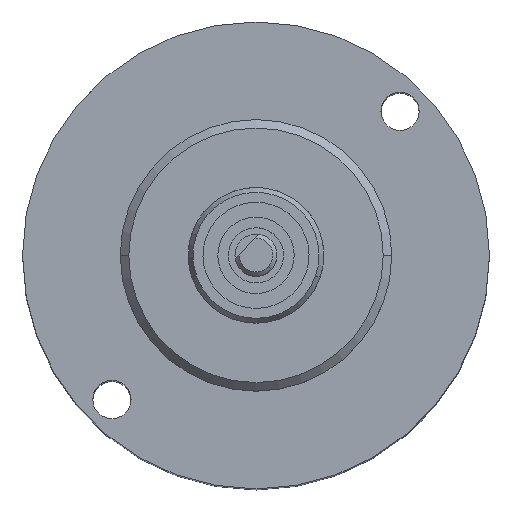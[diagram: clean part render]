
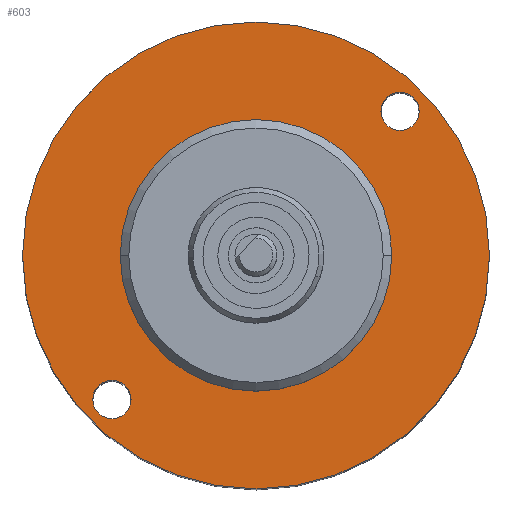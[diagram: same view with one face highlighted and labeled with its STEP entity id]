
A CAD part, top view. The second image highlights one B-rep face of the part: STEP entity #603.
In plain terms, the highlighted planar face has unit normal (0, 0, 1).
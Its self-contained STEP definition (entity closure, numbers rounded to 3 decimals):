
#52 = DIRECTION ( 'NONE',  ( 1., 0., 0. ) ) ;
#68 = DIRECTION ( 'NONE',  ( 0., 0., 1. ) ) ;
#102 = EDGE_CURVE ( 'NONE', #1951, #498, #2799, .T. ) ;
#226 = CARTESIAN_POINT ( 'NONE',  ( -15.99, 0., 71. ) ) ;
#309 = VERTEX_POINT ( 'NONE', #1990 ) ;
#356 = AXIS2_PLACEMENT_3D ( 'NONE', #1713, #68, #1985 ) ;
#405 = DIRECTION ( 'NONE',  ( 0., 0., 1. ) ) ;
#407 = DIRECTION ( 'NONE',  ( 0., 0., 1. ) ) ;
#449 = DIRECTION ( 'NONE',  ( 0., 0., 1. ) ) ;
#483 = CARTESIAN_POINT ( 'NONE',  ( -19.22, -16.97, 71. ) ) ;
#498 = VERTEX_POINT ( 'NONE', #483 ) ;
#547 = VERTEX_POINT ( 'NONE', #3497 ) ;
#603 = ADVANCED_FACE ( 'NONE', ( #3366, #1919, #633, #1196 ), #3244, .T. ) ;
#627 = ORIENTED_EDGE ( 'NONE', *, *, #2814, .F. ) ;
#633 = FACE_BOUND ( 'NONE', #952, .T. ) ;
#713 = ORIENTED_EDGE ( 'NONE', *, *, #1239, .F. ) ;
#718 = EDGE_LOOP ( 'NONE', ( #995, #713 ) ) ;
#752 = ORIENTED_EDGE ( 'NONE', *, *, #1677, .F. ) ;
#759 = AXIS2_PLACEMENT_3D ( 'NONE', #2041, #407, #2325 ) ;
#804 = EDGE_LOOP ( 'NONE', ( #752, #627 ) ) ;
#825 = CARTESIAN_POINT ( 'NONE',  ( 27.5, 0., 71. ) ) ;
#829 = AXIS2_PLACEMENT_3D ( 'NONE', #2579, #943, #2845 ) ;
#876 = EDGE_CURVE ( 'NONE', #309, #3281, #3371, .T. ) ;
#943 = DIRECTION ( 'NONE',  ( 0., 0., 1. ) ) ;
#952 = EDGE_LOOP ( 'NONE', ( #3421, #3146 ) ) ;
#995 = ORIENTED_EDGE ( 'NONE', *, *, #102, .F. ) ;
#1193 = CIRCLE ( 'NONE', #759, 27.5 ) ;
#1196 = FACE_OUTER_BOUND ( 'NONE', #2120, .T. ) ;
#1218 = EDGE_CURVE ( 'NONE', #2172, #2232, #1623, .T. ) ;
#1239 = EDGE_CURVE ( 'NONE', #498, #1951, #2265, .T. ) ;
#1359 = DIRECTION ( 'NONE',  ( 0., 0., 1. ) ) ;
#1483 = CARTESIAN_POINT ( 'NONE',  ( -14.72, -16.97, 71. ) ) ;
#1525 = DIRECTION ( 'NONE',  ( 0., 0., 1. ) ) ;
#1591 = DIRECTION ( 'NONE',  ( 0., 0., 1. ) ) ;
#1623 = CIRCLE ( 'NONE', #2788, 15.99 ) ;
#1659 = ORIENTED_EDGE ( 'NONE', *, *, #876, .T. ) ;
#1677 = EDGE_CURVE ( 'NONE', #547, #3060, #2519, .T. ) ;
#1701 = DIRECTION ( 'NONE',  ( 0., 0., 1. ) ) ;
#1713 = CARTESIAN_POINT ( 'NONE',  ( 0., 0., 71. ) ) ;
#1798 = CARTESIAN_POINT ( 'NONE',  ( 14.72, 16.97, 71. ) ) ;
#1838 = CIRCLE ( 'NONE', #356, 15.99 ) ;
#1919 = FACE_BOUND ( 'NONE', #804, .T. ) ;
#1951 = VERTEX_POINT ( 'NONE', #1483 ) ;
#1972 = EDGE_CURVE ( 'NONE', #3281, #309, #1193, .T. ) ;
#1985 = DIRECTION ( 'NONE',  ( 1., 0., 0. ) ) ;
#1990 = CARTESIAN_POINT ( 'NONE',  ( -27.5, 0., 71. ) ) ;
#2008 = CIRCLE ( 'NONE', #2993, 2.25 ) ;
#2039 = CARTESIAN_POINT ( 'NONE',  ( 0., 0., 71. ) ) ;
#2041 = CARTESIAN_POINT ( 'NONE',  ( 0., 0., 71. ) ) ;
#2088 = CARTESIAN_POINT ( 'NONE',  ( -16.97, -16.97, 71. ) ) ;
#2120 = EDGE_LOOP ( 'NONE', ( #1659, #2282 ) ) ;
#2172 = VERTEX_POINT ( 'NONE', #2674 ) ;
#2232 = VERTEX_POINT ( 'NONE', #226 ) ;
#2265 = CIRCLE ( 'NONE', #3513, 2.25 ) ;
#2282 = ORIENTED_EDGE ( 'NONE', *, *, #1972, .T. ) ;
#2323 = DIRECTION ( 'NONE',  ( 1., 0., 0. ) ) ;
#2325 = DIRECTION ( 'NONE',  ( 1., 0., 0. ) ) ;
#2369 = DIRECTION ( 'NONE',  ( 1., 0., 0. ) ) ;
#2382 = AXIS2_PLACEMENT_3D ( 'NONE', #2996, #1359, #3263 ) ;
#2519 = CIRCLE ( 'NONE', #829, 2.25 ) ;
#2579 = CARTESIAN_POINT ( 'NONE',  ( 16.97, 16.97, 71. ) ) ;
#2674 = CARTESIAN_POINT ( 'NONE',  ( 15.99, 0., 71. ) ) ;
#2788 = AXIS2_PLACEMENT_3D ( 'NONE', #3167, #1525, #3429 ) ;
#2799 = CIRCLE ( 'NONE', #3274, 2.25 ) ;
#2814 = EDGE_CURVE ( 'NONE', #3060, #547, #2008, .T. ) ;
#2838 = EDGE_CURVE ( 'NONE', #2232, #2172, #1838, .T. ) ;
#2845 = DIRECTION ( 'NONE',  ( 1., 0., 0. ) ) ;
#2993 = AXIS2_PLACEMENT_3D ( 'NONE', #3337, #1701, #52 ) ;
#2996 = CARTESIAN_POINT ( 'NONE',  ( 0., 0., 71. ) ) ;
#3047 = AXIS2_PLACEMENT_3D ( 'NONE', #2039, #405, #2323 ) ;
#3060 = VERTEX_POINT ( 'NONE', #1798 ) ;
#3146 = ORIENTED_EDGE ( 'NONE', *, *, #2838, .F. ) ;
#3167 = CARTESIAN_POINT ( 'NONE',  ( 0., 0., 71. ) ) ;
#3229 = CARTESIAN_POINT ( 'NONE',  ( -16.97, -16.97, 71. ) ) ;
#3244 = PLANE ( 'NONE',  #2382 ) ;
#3263 = DIRECTION ( 'NONE',  ( 1., 0., 0. ) ) ;
#3274 = AXIS2_PLACEMENT_3D ( 'NONE', #3229, #1591, #3494 ) ;
#3281 = VERTEX_POINT ( 'NONE', #825 ) ;
#3337 = CARTESIAN_POINT ( 'NONE',  ( 16.97, 16.97, 71. ) ) ;
#3366 = FACE_BOUND ( 'NONE', #718, .T. ) ;
#3371 = CIRCLE ( 'NONE', #3047, 27.5 ) ;
#3421 = ORIENTED_EDGE ( 'NONE', *, *, #1218, .F. ) ;
#3429 = DIRECTION ( 'NONE',  ( 1., 0., 0. ) ) ;
#3494 = DIRECTION ( 'NONE',  ( 1., 0., 0. ) ) ;
#3497 = CARTESIAN_POINT ( 'NONE',  ( 19.22, 16.97, 71. ) ) ;
#3513 = AXIS2_PLACEMENT_3D ( 'NONE', #2088, #449, #2369 ) ;
